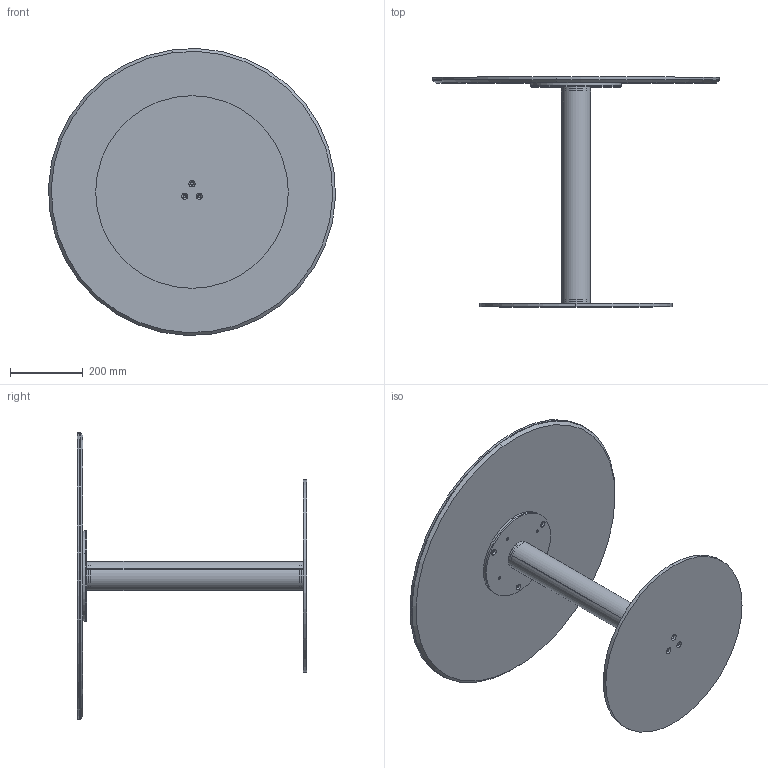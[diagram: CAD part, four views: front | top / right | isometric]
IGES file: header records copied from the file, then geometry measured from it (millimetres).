
Start section: SolidWorks IGES file using analytic representation for surfaces
Global section: file name: Y:\eforma\TECNICO\SOLIDWORKS\E-FORMA\5-TAVOLINI BISTRO\CILINDRO BISTRÒ H63\02 parts\CB17C.IGS; native system: SolidWorks 2022; preprocessor: SolidWorks 2022; author: eforma.tech; date: 240808.104052; units: millimetre
Bounding box: 789.44 x 632 x 789.44 mm (x, y, z)
Volume: 10836500.6 mm3; surface area: 2965185.9 mm2
Topology: 8 solids, 8 shells, 110 faces, 254 edges, 160 vertices
Faces by surface type: revolution 94, plane 16
